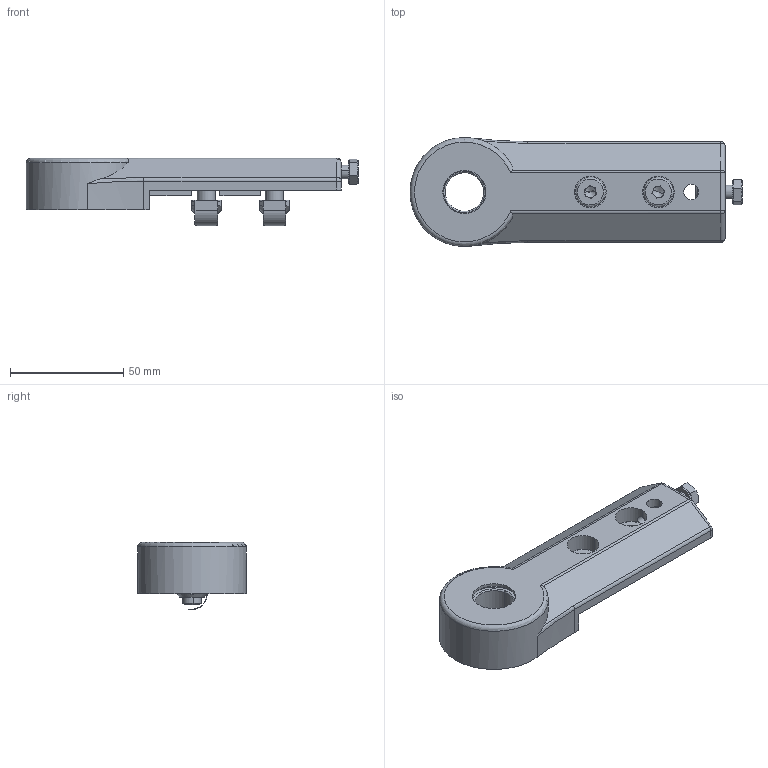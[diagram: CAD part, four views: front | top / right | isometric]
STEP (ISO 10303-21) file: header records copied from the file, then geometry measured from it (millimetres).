
FILE_DESCRIPTION (( 'STEP AP214' ), '1' );
FILE_NAME ('1.8063 45 reiällä M8.STEP', '2024-06-10T12:38:09', ( '' ), ( '' ), 'SwSTEP 2.0', 'SolidWorks 2024', '' );
FILE_SCHEMA (( 'AUTOMOTIVE_DESIGN' ));
Length unit declared in the file: millimetre
Products named in the file (1): 1.8063 45 reiällä M8
Bounding box: 146.38 x 48 x 29.65 mm (x, y, z)
Surface area: 29751.5 mm2 (no closed solid volume)
Topology: 0 solids, 8 shells, 246 faces, 579 edges, 352 vertices
Faces by surface type: plane 117, cylinder 64, cone 38, bspline 14, torus 9, sphere 4
Entity records: 10337 total; most frequent: CARTESIAN_POINT 2004, DIRECTION 1166, ORIENTED_EDGE 1138, EDGE_CURVE 573, AXIS2_PLACEMENT_3D 440, VERTEX_POINT 352, LINE 286, VECTOR 286
